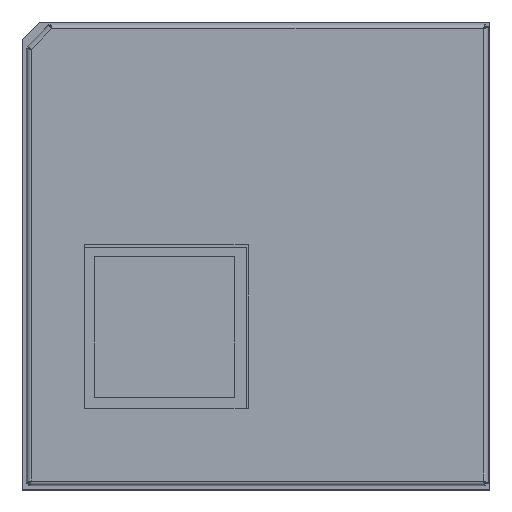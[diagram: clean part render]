
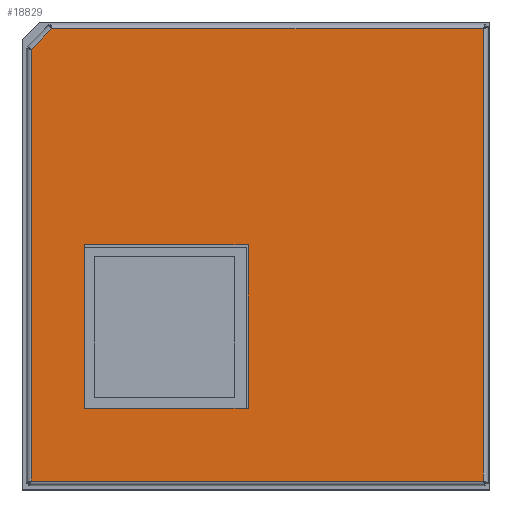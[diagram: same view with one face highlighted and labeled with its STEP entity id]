
A CAD part, top view. The second image highlights one B-rep face of the part: STEP entity #18829.
In plain terms, the highlighted planar face has unit normal (0, 0, 1).
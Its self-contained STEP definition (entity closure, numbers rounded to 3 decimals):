
#3287=FACE_BOUND('',#15495,.F.);
#14213=FACE_OUTER_BOUND('',#15494,.F.);
#15494=EDGE_LOOP('',(#20465,#20466,#20467,#20468,#20469));
#15495=EDGE_LOOP('',(#20470,#20471,#20472,#20473));
#17294=AXIS2_PLACEMENT_3D('',#45785,#39625,#39626);
#18205=PLANE('',#17294);
#18829=ADVANCED_FACE('',(#14213,#3287),#18205,.T.);
#20465=ORIENTED_EDGE('',*,*,#26844,.T.);
#20466=ORIENTED_EDGE('',*,*,#26845,.T.);
#20467=ORIENTED_EDGE('',*,*,#26846,.T.);
#20468=ORIENTED_EDGE('',*,*,#26847,.T.);
#20469=ORIENTED_EDGE('',*,*,#26842,.T.);
#20470=ORIENTED_EDGE('',*,*,#26848,.F.);
#20471=ORIENTED_EDGE('',*,*,#26849,.F.);
#20472=ORIENTED_EDGE('',*,*,#26850,.F.);
#20473=ORIENTED_EDGE('',*,*,#26851,.F.);
#26842=EDGE_CURVE('',#36194,#36217,#33180,.T.);
#26844=EDGE_CURVE('',#36217,#36219,#33191,.T.);
#26845=EDGE_CURVE('',#36219,#36207,#33196,.T.);
#26846=EDGE_CURVE('',#36207,#36197,#33207,.T.);
#26847=EDGE_CURVE('',#36197,#36194,#33218,.T.);
#26848=EDGE_CURVE('',#36183,#36184,#33182,.T.);
#26849=EDGE_CURVE('',#36186,#36183,#33183,.T.);
#26850=EDGE_CURVE('',#36185,#36186,#33184,.T.);
#26851=EDGE_CURVE('',#36184,#36185,#33185,.T.);
#30095=VECTOR('',#39548,36.904);
#30097=VECTOR('',#39550,13.99);
#30098=VECTOR('',#39551,13.99);
#30099=VECTOR('',#39552,13.99);
#30100=VECTOR('',#39553,13.99);
#30106=VECTOR('',#39559,2.469);
#30111=VECTOR('',#39564,36.904);
#30122=VECTOR('',#39575,38.65);
#30133=VECTOR('',#39586,38.65);
#33180=LINE('',#45314,#30095);
#33182=LINE('',#45316,#30097);
#33183=LINE('',#45317,#30098);
#33184=LINE('',#45318,#30099);
#33185=LINE('',#45319,#30100);
#33191=LINE('',#45332,#30106);
#33196=LINE('',#45344,#30111);
#33207=LINE('',#45362,#30122);
#33218=LINE('',#45380,#30133);
#36183=VERTEX_POINT('',#45403);
#36184=VERTEX_POINT('',#45404);
#36185=VERTEX_POINT('',#45405);
#36186=VERTEX_POINT('',#45406);
#36194=VERTEX_POINT('',#45291);
#36197=VERTEX_POINT('',#45415);
#36207=VERTEX_POINT('',#45425);
#36217=VERTEX_POINT('',#45435);
#36219=VERTEX_POINT('',#45437);
#39548=DIRECTION('',(0.,1.,0.));
#39550=DIRECTION('',(1.,0.,0.));
#39551=DIRECTION('',(0.,1.,0.));
#39552=DIRECTION('',(-1.,0.,0.));
#39553=DIRECTION('',(0.,-1.,0.));
#39559=DIRECTION('',(0.707,0.707,0.));
#39564=DIRECTION('',(1.,0.,0.));
#39575=DIRECTION('',(0.,-1.,0.));
#39586=DIRECTION('',(-1.,0.,0.));
#39625=DIRECTION('',(0.,0.,1.));
#39626=DIRECTION('',(1.,0.,0.));
#45291=CARTESIAN_POINT('',(-18.719,-18.736,0.2));
#45314=CARTESIAN_POINT('',(-18.719,-18.736,0.2));
#45316=CARTESIAN_POINT('',(-14.169,1.454,0.2));
#45317=CARTESIAN_POINT('',(-14.169,-12.536,0.2));
#45318=CARTESIAN_POINT('',(-0.179,-12.536,0.2));
#45319=CARTESIAN_POINT('',(-0.179,1.454,0.2));
#45332=CARTESIAN_POINT('',(-18.719,18.168,0.2));
#45344=CARTESIAN_POINT('',(-16.973,19.914,0.2));
#45362=CARTESIAN_POINT('',(19.931,19.914,0.2));
#45380=CARTESIAN_POINT('',(19.931,-18.736,0.2));
#45403=CARTESIAN_POINT('',(-14.169,1.454,0.2));
#45404=CARTESIAN_POINT('',(-0.179,1.454,0.2));
#45405=CARTESIAN_POINT('',(-0.179,-12.536,0.2));
#45406=CARTESIAN_POINT('',(-14.169,-12.536,0.2));
#45415=CARTESIAN_POINT('',(19.931,-18.736,0.2));
#45425=CARTESIAN_POINT('',(19.931,19.914,0.2));
#45435=CARTESIAN_POINT('',(-18.719,18.168,0.2));
#45437=CARTESIAN_POINT('',(-16.973,19.914,0.2));
#45785=CARTESIAN_POINT('',(0.,0.,0.2));
